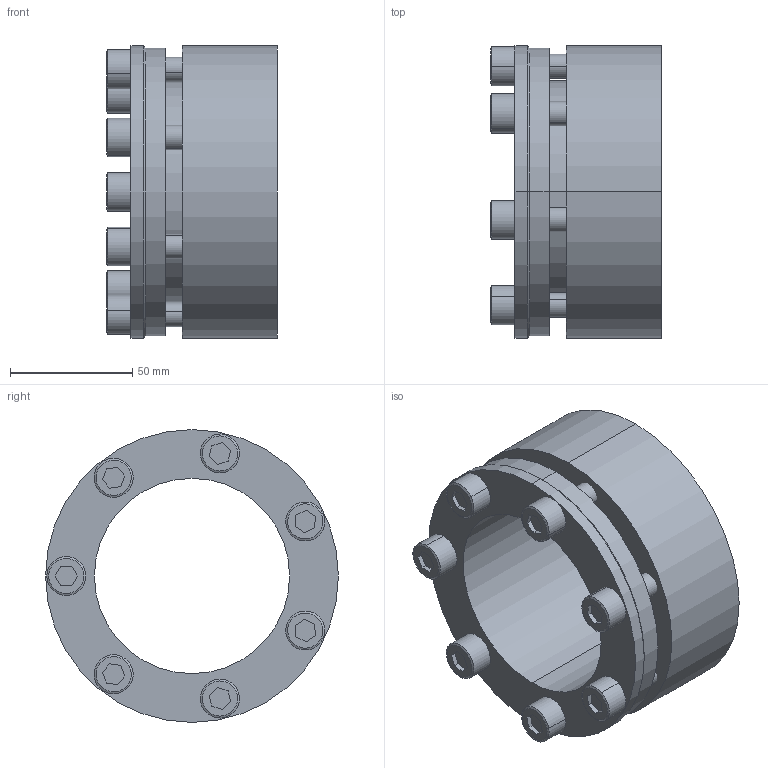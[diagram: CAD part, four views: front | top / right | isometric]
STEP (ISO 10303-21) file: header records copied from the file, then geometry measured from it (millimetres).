
FILE_DESCRIPTION (( 'STEP AP203' ), '1' );
FILE_NAME ('SD-80.step', '2009-09-29T16:33:05', ( 'USER' ), ( 'HOME' ), 'SwSTEP 2.0', 'SolidWorks 2007', '' );
FILE_SCHEMA (( 'CONFIG_CONTROL_DESIGN' ));
Length unit declared in the file: millimetre
Products named in the file (1): SD-80
Bounding box: 70 x 120 x 120 mm (x, y, z)
Volume: 348856.8 mm3; surface area: 80494.8 mm2
Topology: 8 solids, 8 shells, 156 faces, 354 edges, 230 vertices
Faces by surface type: plane 74, cylinder 66, cone 16
Entity records: 4523 total; most frequent: DIRECTION 814, CARTESIAN_POINT 741, ORIENTED_EDGE 708, EDGE_CURVE 354, AXIS2_PLACEMENT_3D 303, VERTEX_POINT 230, LINE 208, VECTOR 208
